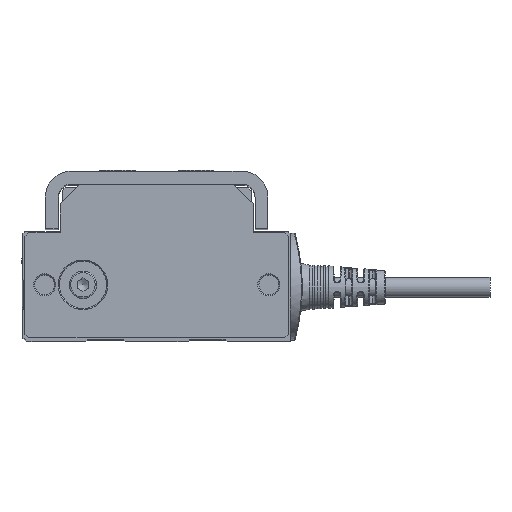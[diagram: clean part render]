
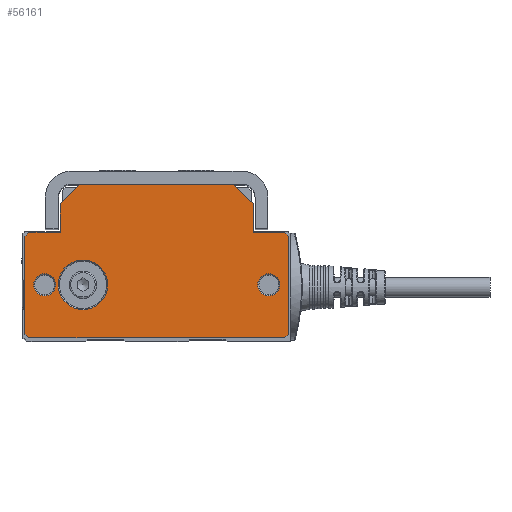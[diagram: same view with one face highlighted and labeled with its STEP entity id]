
A CAD part, top view. The second image highlights one B-rep face of the part: STEP entity #56161.
In plain terms, the highlighted planar face has unit normal (0, 0, 1).
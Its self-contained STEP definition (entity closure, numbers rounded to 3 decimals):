
#5245=FACE_BOUND('',#14000,.T.);
#5246=FACE_BOUND('',#14001,.T.);
#5247=FACE_BOUND('',#14002,.T.);
#7723=CIRCLE('',#61964,2.8);
#7724=CIRCLE('',#61965,2.8);
#7725=CIRCLE('',#61966,2.8);
#7726=CIRCLE('',#61967,2.8);
#7727=CIRCLE('',#61968,6.3);
#7728=CIRCLE('',#61969,6.3);
#10697=FACE_OUTER_BOUND('',#13999,.T.);
#13999=EDGE_LOOP('',(#51395,#51396,#51397,#51398,#51399,#51400,#51401,#51402,
#51403,#51404,#51405,#51406,#51407,#51408));
#14000=EDGE_LOOP('',(#51409,#51410));
#14001=EDGE_LOOP('',(#51411,#51412));
#14002=EDGE_LOOP('',(#51413,#51414));
#18089=LINE('',#121293,#22195);
#18091=LINE('',#121297,#22197);
#18094=LINE('',#121303,#22200);
#18095=LINE('',#121305,#22201);
#18096=LINE('',#121307,#22202);
#18097=LINE('',#121309,#22203);
#18098=LINE('',#121311,#22204);
#18099=LINE('',#121313,#22205);
#18100=LINE('',#121315,#22206);
#18101=LINE('',#121317,#22207);
#18102=LINE('',#121319,#22208);
#18103=LINE('',#121321,#22209);
#18104=LINE('',#121323,#22210);
#18105=LINE('',#121324,#22211);
#22195=VECTOR('',#76568,10.);
#22197=VECTOR('',#76572,1000.);
#22200=VECTOR('',#76577,1000.);
#22201=VECTOR('',#76578,10.);
#22202=VECTOR('',#76579,1000.);
#22203=VECTOR('',#76580,1000.);
#22204=VECTOR('',#76581,1000.);
#22205=VECTOR('',#76582,1000.);
#22206=VECTOR('',#76583,1000.);
#22207=VECTOR('',#76584,1000.);
#22208=VECTOR('',#76585,1000.);
#22209=VECTOR('',#76586,1000.);
#22210=VECTOR('',#76587,1000.);
#22211=VECTOR('',#76588,1000.);
#27514=VERTEX_POINT('',#121290);
#27515=VERTEX_POINT('',#121292);
#27516=VERTEX_POINT('',#121296);
#27518=VERTEX_POINT('',#121302);
#27519=VERTEX_POINT('',#121304);
#27520=VERTEX_POINT('',#121306);
#27521=VERTEX_POINT('',#121308);
#27522=VERTEX_POINT('',#121310);
#27523=VERTEX_POINT('',#121312);
#27524=VERTEX_POINT('',#121314);
#27525=VERTEX_POINT('',#121316);
#27526=VERTEX_POINT('',#121318);
#27527=VERTEX_POINT('',#121320);
#27528=VERTEX_POINT('',#121322);
#27529=VERTEX_POINT('',#121325);
#27530=VERTEX_POINT('',#121326);
#27531=VERTEX_POINT('',#121329);
#27532=VERTEX_POINT('',#121330);
#27533=VERTEX_POINT('',#121333);
#27534=VERTEX_POINT('',#121334);
#35517=EDGE_CURVE('',#27514,#27515,#18089,.T.);
#35519=EDGE_CURVE('',#27515,#27516,#18091,.T.);
#35522=EDGE_CURVE('',#27514,#27518,#18094,.T.);
#35523=EDGE_CURVE('',#27519,#27518,#18095,.T.);
#35524=EDGE_CURVE('',#27520,#27519,#18096,.T.);
#35525=EDGE_CURVE('',#27521,#27520,#18097,.T.);
#35526=EDGE_CURVE('',#27521,#27522,#18098,.T.);
#35527=EDGE_CURVE('',#27522,#27523,#18099,.T.);
#35528=EDGE_CURVE('',#27523,#27524,#18100,.T.);
#35529=EDGE_CURVE('',#27525,#27524,#18101,.T.);
#35530=EDGE_CURVE('',#27525,#27526,#18102,.T.);
#35531=EDGE_CURVE('',#27526,#27527,#18103,.T.);
#35532=EDGE_CURVE('',#27527,#27528,#18104,.T.);
#35533=EDGE_CURVE('',#27516,#27528,#18105,.T.);
#35534=EDGE_CURVE('',#27529,#27530,#7723,.T.);
#35535=EDGE_CURVE('',#27530,#27529,#7724,.T.);
#35536=EDGE_CURVE('',#27531,#27532,#7725,.T.);
#35537=EDGE_CURVE('',#27532,#27531,#7726,.T.);
#35538=EDGE_CURVE('',#27533,#27534,#7727,.T.);
#35539=EDGE_CURVE('',#27534,#27533,#7728,.T.);
#51395=ORIENTED_EDGE('',*,*,#35517,.F.);
#51396=ORIENTED_EDGE('',*,*,#35522,.T.);
#51397=ORIENTED_EDGE('',*,*,#35523,.F.);
#51398=ORIENTED_EDGE('',*,*,#35524,.F.);
#51399=ORIENTED_EDGE('',*,*,#35525,.F.);
#51400=ORIENTED_EDGE('',*,*,#35526,.T.);
#51401=ORIENTED_EDGE('',*,*,#35527,.T.);
#51402=ORIENTED_EDGE('',*,*,#35528,.T.);
#51403=ORIENTED_EDGE('',*,*,#35529,.F.);
#51404=ORIENTED_EDGE('',*,*,#35530,.T.);
#51405=ORIENTED_EDGE('',*,*,#35531,.T.);
#51406=ORIENTED_EDGE('',*,*,#35532,.T.);
#51407=ORIENTED_EDGE('',*,*,#35533,.F.);
#51408=ORIENTED_EDGE('',*,*,#35519,.F.);
#51409=ORIENTED_EDGE('',*,*,#35534,.T.);
#51410=ORIENTED_EDGE('',*,*,#35535,.T.);
#51411=ORIENTED_EDGE('',*,*,#35536,.T.);
#51412=ORIENTED_EDGE('',*,*,#35537,.T.);
#51413=ORIENTED_EDGE('',*,*,#35538,.T.);
#51414=ORIENTED_EDGE('',*,*,#35539,.T.);
#53233=PLANE('',#61963);
#56161=ADVANCED_FACE('',(#10697,#5245,#5246,#5247),#53233,.T.);
#61963=AXIS2_PLACEMENT_3D('',#121301,#76575,#76576);
#61964=AXIS2_PLACEMENT_3D('',#121327,#76589,#76590);
#61965=AXIS2_PLACEMENT_3D('',#121328,#76591,#76592);
#61966=AXIS2_PLACEMENT_3D('',#121331,#76593,#76594);
#61967=AXIS2_PLACEMENT_3D('',#121332,#76595,#76596);
#61968=AXIS2_PLACEMENT_3D('',#121335,#76597,#76598);
#61969=AXIS2_PLACEMENT_3D('',#121336,#76599,#76600);
#76568=DIRECTION('',(0.707,-0.707,0.));
#76572=DIRECTION('',(0.,-1.,0.));
#76575=DIRECTION('center_axis',(0.,0.,1.));
#76576=DIRECTION('ref_axis',(1.,0.,0.));
#76577=DIRECTION('',(-1.,0.,0.));
#76578=DIRECTION('',(0.707,0.707,0.));
#76579=DIRECTION('',(0.,1.,0.));
#76580=DIRECTION('',(1.,0.,0.));
#76581=DIRECTION('',(-0.707,-0.707,0.));
#76582=DIRECTION('',(0.,-1.,0.));
#76583=DIRECTION('',(0.707,-0.707,0.));
#76584=DIRECTION('',(-1.,0.,0.));
#76585=DIRECTION('',(0.707,0.707,0.));
#76586=DIRECTION('',(0.,1.,0.));
#76587=DIRECTION('',(-0.707,0.707,0.));
#76588=DIRECTION('',(1.,0.,0.));
#76589=DIRECTION('center_axis',(0.,0.,-1.));
#76590=DIRECTION('ref_axis',(1.,0.,0.));
#76591=DIRECTION('center_axis',(0.,0.,-1.));
#76592=DIRECTION('ref_axis',(1.,0.,0.));
#76593=DIRECTION('center_axis',(0.,0.,-1.));
#76594=DIRECTION('ref_axis',(1.,0.,0.));
#76595=DIRECTION('center_axis',(0.,0.,-1.));
#76596=DIRECTION('ref_axis',(1.,0.,0.));
#76597=DIRECTION('center_axis',(0.,0.,-1.));
#76598=DIRECTION('ref_axis',(1.,0.,0.));
#76599=DIRECTION('center_axis',(0.,0.,-1.));
#76600=DIRECTION('ref_axis',(1.,0.,0.));
#121290=CARTESIAN_POINT('',(19.5,19.575,0.));
#121292=CARTESIAN_POINT('',(24.5,14.575,0.));
#121293=CARTESIAN_POINT('',(20.769,18.306,0.));
#121296=CARTESIAN_POINT('',(24.5,7.275,0.));
#121297=CARTESIAN_POINT('',(24.5,20.025,0.));
#121301=CARTESIAN_POINT('Origin',(0.,0.,0.));
#121302=CARTESIAN_POINT('',(-19.5,19.575,0.));
#121303=CARTESIAN_POINT('',(-33.5,19.575,0.));
#121304=CARTESIAN_POINT('',(-24.5,14.575,0.));
#121305=CARTESIAN_POINT('',(-20.769,18.306,0.));
#121306=CARTESIAN_POINT('',(-24.5,7.275,0.));
#121307=CARTESIAN_POINT('',(-24.5,20.025,0.));
#121308=CARTESIAN_POINT('',(-32.5,7.275,0.));
#121309=CARTESIAN_POINT('',(-33.5,7.275,0.));
#121310=CARTESIAN_POINT('',(-33.5,6.275,0.));
#121311=CARTESIAN_POINT('',(-19.888,19.888,0.));
#121312=CARTESIAN_POINT('',(-33.5,-18.525,0.));
#121313=CARTESIAN_POINT('',(-33.5,20.025,0.));
#121314=CARTESIAN_POINT('',(-32.5,-19.525,0.));
#121315=CARTESIAN_POINT('',(-26.013,-26.012,0.));
#121316=CARTESIAN_POINT('',(32.5,-19.525,0.));
#121317=CARTESIAN_POINT('',(33.5,-19.525,0.));
#121318=CARTESIAN_POINT('',(33.5,-18.525,0.));
#121319=CARTESIAN_POINT('',(26.013,-26.012,0.));
#121320=CARTESIAN_POINT('',(33.5,6.275,0.));
#121321=CARTESIAN_POINT('',(33.5,20.025,0.));
#121322=CARTESIAN_POINT('',(32.5,7.275,0.));
#121323=CARTESIAN_POINT('',(19.888,19.888,0.));
#121324=CARTESIAN_POINT('',(33.5,7.275,0.));
#121325=CARTESIAN_POINT('',(31.3,-6.025,0.));
#121326=CARTESIAN_POINT('',(25.7,-6.025,0.));
#121327=CARTESIAN_POINT('Origin',(28.5,-6.025,0.));
#121328=CARTESIAN_POINT('Origin',(28.5,-6.025,0.));
#121329=CARTESIAN_POINT('',(-25.7,-6.025,0.));
#121330=CARTESIAN_POINT('',(-31.3,-6.025,0.));
#121331=CARTESIAN_POINT('Origin',(-28.5,-6.025,0.));
#121332=CARTESIAN_POINT('Origin',(-28.5,-6.025,0.));
#121333=CARTESIAN_POINT('',(-12.45,-6.025,0.));
#121334=CARTESIAN_POINT('',(-25.05,-6.025,0.));
#121335=CARTESIAN_POINT('Origin',(-18.75,-6.025,0.));
#121336=CARTESIAN_POINT('Origin',(-18.75,-6.025,0.));
